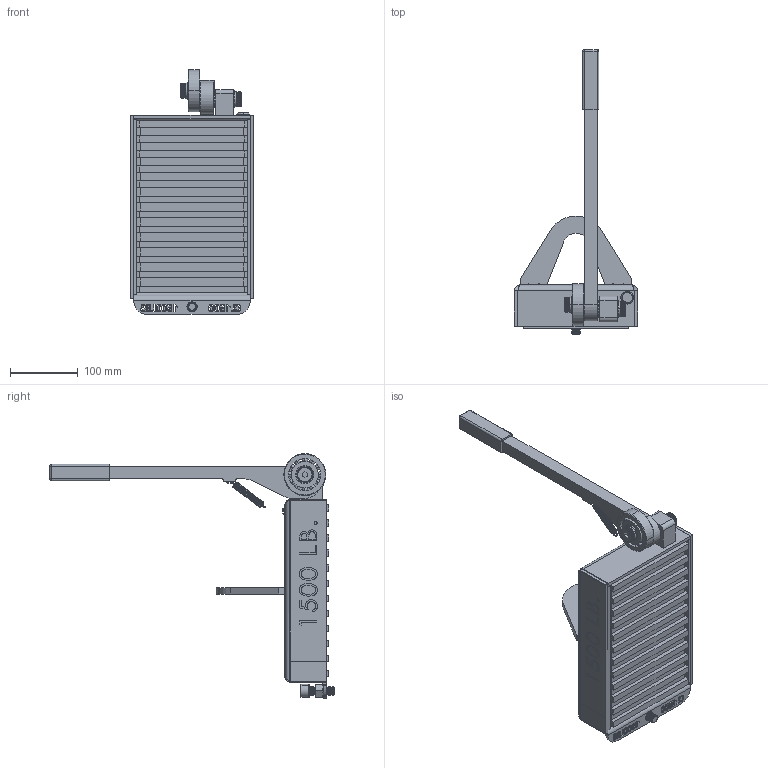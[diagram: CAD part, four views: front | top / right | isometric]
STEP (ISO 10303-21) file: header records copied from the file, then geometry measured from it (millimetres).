
FILE_DESCRIPTION (( 'STEP AP203' ), '1' );
FILE_NAME ('CL1500.STEP', '2018-08-21T20:30:42', ( '' ), ( '' ), 'SwSTEP 2.0', 'SolidWorks 2015', '' );
FILE_SCHEMA (( 'CONFIG_CONTROL_DESIGN' ));
Products named in the file (1): CL1500
Bounding box: 182.29 x 419.83 x 361.17 mm (x, y, z)
Volume: 3053795.3 mm3; surface area: 926787.2 mm2
Topology: 59 solids, 59 shells, 2898 faces, 7284 edges, 4581 vertices
Faces by surface type: plane 1701, cylinder 472, bspline 409, cone 279, torus 33, sphere 4
Entity records: 121463 total; most frequent: CARTESIAN_POINT 55775, ORIENTED_EDGE 14466, DIRECTION 11874, EDGE_CURVE 7233, VECTOR 4596, LINE 4596, VERTEX_POINT 4582, AXIS2_PLACEMENT_3D 3639
